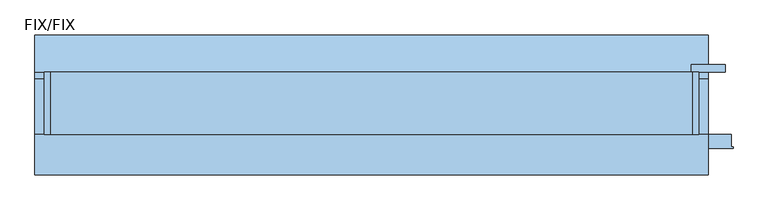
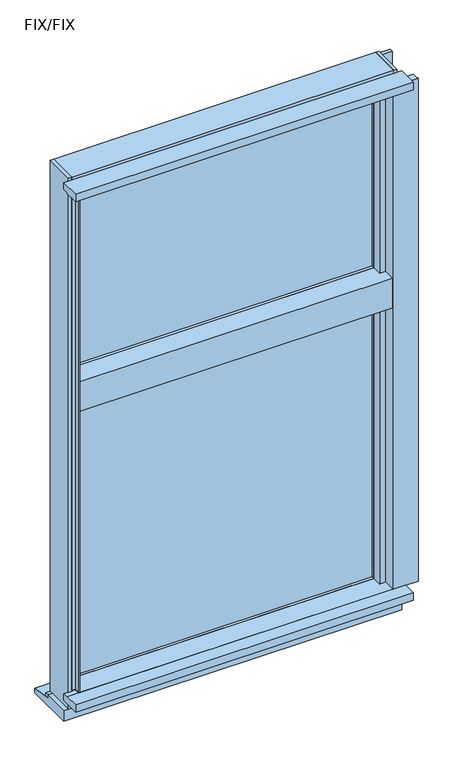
"""IFC4 building model written with IfcOpenShell, lengths in millimetres: window geometry, FNSⅡ100R_非防火_RC枠_段窓 : FIX/FIX."""

import ifcopenshell
import ifcopenshell.guid

model = None  # the IFC model being written
_history = None  # IfcOwnerHistory: only IFC2X3 demands one
_inside = {}  # id of a spatial element -> (the spatial element, [elements in it])
_under = {}  # id of a project, library or spatial element -> (it, [spatial elements below it])
_declared = {}  # id of a project -> (the project, [libraries it declares])
_typed = {}  # id of a type object -> (the type object, [elements of that type])
_made_of = {}  # id of a material, layer set ... -> (it, [elements and type objects made of it])


def new_model(schema):
    """Start an empty IFC model of exactly this schema.

    Asked for "IFC4X3", IfcOpenShell would pick the latest addendum, in which some entities
    have other attributes; the version numbers below select the first issue.
    IFC2X3 requires an IfcOwnerHistory on every rooted entity: one is made here for all.
    """
    global model, _history
    if schema == "IFC4X3":
        model = ifcopenshell.file(schema_version=(4, 3, 0, 0))
    else:
        model = ifcopenshell.file(schema=schema)
    _inside.clear()
    _under.clear()
    _declared.clear()
    _typed.clear()
    _made_of.clear()
    _history = None
    if model.schema == "IFC2X3":
        org = make("IfcOrganization", Name="unknown")
        user = make(
            "IfcPersonAndOrganization",
            ThePerson=make("IfcPerson", FamilyName="unknown"),
            TheOrganization=org,
        )
        app = make(
            "IfcApplication",
            ApplicationDeveloper=org,
            Version="unknown",
            ApplicationFullName="unknown",
            ApplicationIdentifier="unknown",
        )
        _history = make(
            "IfcOwnerHistory",
            OwningUser=user,
            OwningApplication=app,
            ChangeAction="ADDED",
            CreationDate=0,
        )
    return model


def make(cls, **values):
    """One entity of the class cls with the attributes given. An attribute that is None is left unset."""
    return model.create_entity(
        cls, **{name: value for name, value in values.items() if value is not None}
    )


def rooted(cls, **values):
    """An entity with a GlobalId (a new one), such as an element, a storey or a relation."""
    return make(cls, GlobalId=ifcopenshell.guid.new(), OwnerHistory=_history, **values)


def si_unit(unit_type, name, prefix=None):
    """IfcSIUnit, for example si_unit("LENGTHUNIT", "METRE", prefix="MILLI")."""
    return make("IfcSIUnit", UnitType=unit_type, Prefix=prefix, Name=name)


def assignment(units):
    """IfcUnitAssignment: the units of a project."""
    return None if units is None else make("IfcUnitAssignment", Units=units)


def point(xyz):
    """IfcCartesianPoint."""
    return None if xyz is None else make("IfcCartesianPoint", Coordinates=xyz)


def direction(xyz):
    """IfcDirection."""
    return None if xyz is None else make("IfcDirection", DirectionRatios=xyz)


def frame(location, z_axis=None, x_axis=None):
    """IfcAxis2Placement3D, a coordinate frame: its origin and axes. An axis left out is left unset."""
    return make(
        "IfcAxis2Placement3D",
        Location=point(location),
        Axis=direction(z_axis),
        RefDirection=direction(x_axis),
    )


def origin():
    """The frame at (0, 0, 0) with its axes left unset."""
    return frame((0.0, 0.0, 0.0))


def place(relative_to, where):
    """IfcLocalPlacement: puts the frame where relative to a parent placement (None: the world)."""
    return make(
        "IfcLocalPlacement", PlacementRelTo=relative_to, RelativePlacement=where
    )


def context(
    kind, dimensions, precision=None, world=None, true_north=None, identifier=None
):
    """IfcGeometricRepresentationContext, for example the 3D "Model" context."""
    return make(
        "IfcGeometricRepresentationContext",
        ContextIdentifier=identifier,
        ContextType=kind,
        CoordinateSpaceDimension=dimensions,
        Precision=precision,
        WorldCoordinateSystem=world,
        TrueNorth=true_north,
    )


def project(units=None, contexts=None):
    """IfcProject with its units and contexts."""
    return rooted(
        "IfcProject",
        Name="project",
        RepresentationContexts=contexts,
        UnitsInContext=assignment(units),
    )


def spatial(cls, under=None, at=None, **own):
    """A site, building, storey or space (cls), placed at a placement, below another one or the project."""
    s = rooted(cls, ObjectPlacement=at, **own)
    if under is not None:
        _under.setdefault(under.id(), (under, []))[1].append(s)
    return s


def polyline(points):
    """IfcPolyline through the points."""
    return make("IfcPolyline", Points=[point(p) for p in points])


def outline(outer, holes=None, kind="AREA"):
    """IfcArbitraryClosedProfileDef: a profile drawn as a closed curve; with holes, ...WithVoids."""
    if holes is None:
        return make("IfcArbitraryClosedProfileDef", ProfileType=kind, OuterCurve=outer)
    return make(
        "IfcArbitraryProfileDefWithVoids",
        ProfileType=kind,
        OuterCurve=outer,
        InnerCurves=holes,
    )


def extrude(swept, where, along, depth):
    """IfcExtrudedAreaSolid: the profile swept, set in the frame where, extruded along a direction by depth."""
    return make(
        "IfcExtrudedAreaSolid",
        SweptArea=swept,
        Position=where,
        ExtrudedDirection=direction(along),
        Depth=depth,
    )


def faces_of(points, faces, orient=None, outer=None):
    """IfcFace entities. A face is a list of loops; a loop is a list of indices into points, from 0.

    orient and outer hold one flag for each loop. By default every Orientation is true, the
    first loop of a face is its IfcFaceOuterBound and the others are IfcFaceBound.
    """
    made = []
    for i, loops in enumerate(faces):
        bounds = []
        for j, loop in enumerate(loops):
            is_outer = j == 0 if outer is None else outer[i][j]
            bounds.append(
                make(
                    "IfcFaceOuterBound" if is_outer else "IfcFaceBound",
                    Bound=make("IfcPolyLoop", Polygon=[points[k] for k in loop]),
                    Orientation=True if orient is None else orient[i][j],
                )
            )
        made.append(make("IfcFace", Bounds=bounds))
    return made


def faceted_brep(points, faces, orient=None, outer=None, voids=None):
    """IfcFacetedBrep: a solid bounded by flat faces; with voids (closed shells), ...WithVoids."""
    shared = [point(p) for p in points]
    hull = make("IfcClosedShell", CfsFaces=faces_of(shared, faces, orient, outer))
    if voids is None:
        return make("IfcFacetedBrep", Outer=hull)
    return make(
        "IfcFacetedBrepWithVoids",
        Outer=hull,
        Voids=[
            make(cls, CfsFaces=faces_of(shared, fs, o, b)) for cls, fs, o, b in voids
        ],
    )


def shape(context_of_items, identifier, shape_type, items):
    """IfcShapeRepresentation: the items that make up one representation, for example the "Body"."""
    return make(
        "IfcShapeRepresentation",
        ContextOfItems=context_of_items,
        RepresentationIdentifier=identifier,
        RepresentationType=shape_type,
        Items=items,
    )


def source(mapping_origin, context_of_items, identifier, shape_type, items):
    """IfcRepresentationMap: a shape defined once, which mapped items show again and again."""
    return make(
        "IfcRepresentationMap",
        MappingOrigin=mapping_origin,
        MappedRepresentation=shape(context_of_items, identifier, shape_type, items),
    )


def transform(
    local_origin,
    x_axis=None,
    y_axis=None,
    z_axis=None,
    scale=None,
    scale2=None,
    scale3=None,
    uniform=True,
):
    """IfcCartesianTransformationOperator3D, or its non-uniform kind. x_axis, y_axis, z_axis: its Axis1, 2, 3."""
    if uniform:
        return make(
            "IfcCartesianTransformationOperator3D",
            Axis1=direction(x_axis),
            Axis2=direction(y_axis),
            LocalOrigin=point(local_origin),
            Scale=scale,
            Axis3=direction(z_axis),
        )
    return make(
        "IfcCartesianTransformationOperator3DnonUniform",
        Axis1=direction(x_axis),
        Axis2=direction(y_axis),
        LocalOrigin=point(local_origin),
        Scale=scale,
        Axis3=direction(z_axis),
        Scale2=scale2,
        Scale3=scale3,
    )


def mapped(mapping_source, mapping_target):
    """IfcMappedItem: shows the shape of a source again, moved by a transform."""
    return make(
        "IfcMappedItem", MappingSource=mapping_source, MappingTarget=mapping_target
    )


def made_of(thing, what):
    """Note that an element or type object is made of a material, layer set ...; save() writes the relation."""
    if what is not None:
        _made_of.setdefault(what.id(), (what, []))[1].append(thing)
    return thing


def element(
    cls,
    number,
    at=None,
    inside=None,
    cuts=None,
    type_object=None,
    material=None,
    context=None,
    identifier="Body",
    shape_type=None,
    held_by="IfcProductDefinitionShape",
    body=None,
    shapes=None,
    **own,
):
    """One element of the class cls, such as IfcWall. Its Tag is "e" and its number.

    at: its placement. inside: the storey or other place that contains it. cuts: it is an
    opening in that element (IfcRelVoidsElement). A single representation is given by context,
    identifier, shape_type and body (its items); several are given by shapes. held_by: the class
    of the entity that holds the representations. save() writes the other relations.
    """
    e = rooted(cls, Tag="e%d" % number, ObjectPlacement=at, **own)
    if body is not None:
        shapes = [shape(context, identifier, shape_type, body)]
    if shapes is not None:
        e.Representation = make(held_by, Representations=shapes)
    if inside is not None:
        _inside.setdefault(inside.id(), (inside, []))[1].append(e)
    if cuts is not None:
        rooted(
            "IfcRelVoidsElement", RelatingBuildingElement=cuts, RelatedOpeningElement=e
        )
    if type_object is not None:
        _typed.setdefault(type_object.id(), (type_object, []))[1].append(e)
    return made_of(e, material)


def aggregate(whole, parts):
    """IfcRelAggregates: a whole, such as a stair, and the parts it consists of."""
    return rooted("IfcRelAggregates", RelatingObject=whole, RelatedObjects=parts)


def save(model, path):
    """Write the relations noted so far, then the file.

    IfcRelAggregates (storeys below a building ...), IfcRelContainedInSpatialStructure (elements
    in a storey), IfcRelDefinesByType, IfcRelAssociatesMaterial and IfcRelDeclares: one each for
    every whole, place, type object, material and project.
    """
    for whole, parts in _under.values():
        aggregate(whole, parts)
    for where, things in _inside.values():
        rooted(
            "IfcRelContainedInSpatialStructure",
            RelatedElements=things,
            RelatingStructure=where,
        )
    for kind, things in _typed.values():
        rooted("IfcRelDefinesByType", RelatedObjects=things, RelatingType=kind)
    for what, things in _made_of.values():
        rooted("IfcRelAssociatesMaterial", RelatedObjects=things, RelatingMaterial=what)
    for by, libraries in _declared.values():
        rooted("IfcRelDeclares", RelatingContext=by, RelatedDefinitions=libraries)
    model.write(path)


def fix_fix_834ad85f(model_context):
    return source(origin(), model_context, "Body", "SolidModel", [
        extrude(outline(polyline([(-480.0, 20.6), (480.0, 20.6), (480.0, 14.6), (-480.0, 14.6), (-480.0, 20.6)])), frame((0.0, 0.0, 1950.0), z_axis=(0.0, 0.0, 1.0), x_axis=(1.0, 0.0, 0.0)), (0.0, 0.0, 1.0), 650.0),
        extrude(outline(polyline([(-480.0, 38.6), (480.0, 38.6), (480.0, 32.6), (-480.0, 32.6), (-480.0, 38.6)])), frame((0.0, 0.0, 1950.0), z_axis=(0.0, 0.0, 1.0), x_axis=(1.0, 0.0, 0.0)), (0.0, 0.0, 1.0), 650.0),
        extrude(outline(polyline([(-480.0, 20.6), (480.0, 20.6), (480.0, 14.6), (-480.0, 14.6), (-480.0, 20.6)])), frame((0.0, 0.0, 900.0), z_axis=(0.0, 0.0, 1.0), x_axis=(1.0, 0.0, 0.0)), (0.0, 0.0, 1.0), 950.0),
        extrude(outline(polyline([(-480.0, 38.6), (480.0, 38.6), (480.0, 32.6), (-480.0, 32.6), (-480.0, 38.6)])), frame((0.0, 0.0, 900.0), z_axis=(0.0, 0.0, 1.0), x_axis=(1.0, 0.0, 0.0)), (0.0, 0.0, 1.0), 950.0),
        faceted_brep([(-525.0, 55.0, 840.0), (-515.0, 55.0, 840.0), (-515.0, -45.0, 840.0), (-525.0, -45.0, 840.0), (-515.0, 55.0, 2635.0), (-515.0, -45.0, 2635.0), (-515.0, 55.0, 900.0), (-515.0, 5.0, 900.0), (-515.0, 5.0, 2600.0), (-515.0, 55.0, 2600.0), (-525.0, -45.0, 2635.0), (-480.0, 55.0, 900.0), (-480.0, 5.0, 900.0), (-480.0, 55.0, 2600.0), (-480.0, 5.0, 2600.0), (-525.0, 55.0, 2635.0)], [[[0, 1, 2, 3]], [[4, 5, 2, 1, 6, 7, 8, 9]], [[5, 10, 3, 2]], [[11, 12, 7, 6]], [[13, 14, 12, 11]], [[15, 10, 5, 4]], [[15, 4, 9, 13, 11, 6, 1, 0]], [[10, 15, 0, 3]], [[14, 8, 7, 12]], [[13, 9, 8, 14]]]),
        faceted_brep([(525.0, 55.0, 840.0), (525.0, -45.0, 840.0), (515.0, -45.0, 840.0), (515.0, 55.0, 840.0), (525.0, 55.0, 2635.0), (525.0, -45.0, 2635.0), (515.0, -45.0, 2635.0), (515.0, 55.0, 2635.0), (515.0, 55.0, 2600.0), (515.0, 5.0, 2600.0), (515.0, 5.0, 900.0), (515.0, 55.0, 900.0), (480.0, 5.0, 900.0), (480.0, 55.0, 900.0), (480.0, 55.0, 2600.0), (480.0, 5.0, 2600.0)], [[[0, 1, 2, 3]], [[4, 5, 1, 0]], [[6, 7, 8, 9, 10, 11, 3, 2]], [[10, 12, 13, 11]], [[4, 7, 6, 5]], [[5, 6, 2, 1]], [[7, 4, 0, 3, 11, 13, 14, 8]], [[15, 14, 13, 12]], [[9, 15, 12, 10]], [[8, 14, 15, 9]]]),
        extrude(outline(polyline([(500.0, -65.0), (500.0, -26.5), (480.0, -26.5), (480.0, 5.0), (515.0, 5.0), (515.0, -45.0), (503.0, -45.0), (503.0, -65.0), (500.0, -65.0)])), frame((0.0, 0.0, 900.0), z_axis=(0.0, 0.0, 1.0), x_axis=(1.0, 0.0, 0.0)), (0.0, 0.0, 1.0), 1700.0),
        extrude(outline(polyline([(-515.0, -45.0), (-515.0, 5.0), (-480.0, 5.0), (-480.0, -26.5), (-500.0, -26.5), (-500.0, -65.0), (-503.0, -65.0), (-503.0, -45.0), (-515.0, -45.0)])), frame((0.0, 0.0, 900.0), z_axis=(0.0, 0.0, 1.0), x_axis=(1.0, 0.0, 0.0)), (0.0, 0.0, 1.0), 1700.0),
        extrude(outline(polyline([(-45.0, 884.0), (-45.0, 897.0), (-65.0, 897.0), (-65.0, 900.0), (5.0, 900.0), (5.0, 884.0), (-45.0, 884.0)])), frame((-503.0, 0.0, 0.0), z_axis=(1.0, 0.0, 0.0), x_axis=(0.0, 1.0, 0.0)), (0.0, 0.0, 1.0), 1006.0),
        extrude(outline(polyline([(55.0, 840.0), (-45.0, 840.0), (-45.0, 884.0), (5.0, 884.0), (5.0, 900.0), (55.0, 900.0), (55.0, 870.0), (36.0, 870.0), (36.0, 850.0), (55.0, 850.0), (55.0, 840.0)])), frame((-515.0, 0.0, 0.0), z_axis=(1.0, 0.0, 0.0), x_axis=(0.0, 1.0, 0.0)), (0.0, 0.0, 1.0), 1030.0),
        extrude(outline(polyline([(5.0, 1936.0), (-45.0, 1936.0), (-45.0, 1865.0), (5.0, 1865.0), (5.0, 1850.0), (-65.0, 1850.0), (-65.0, 1950.0), (5.0, 1950.0), (5.0, 1936.0)])), frame((-500.0, 0.0, 0.0), z_axis=(1.0, 0.0, 0.0), x_axis=(0.0, 1.0, 0.0)), (0.0, 0.0, 1.0), 1000.0),
        extrude(outline(polyline([(55.0, 1850.0), (5.0, 1850.0), (5.0, 1865.0), (-45.0, 1865.0), (-45.0, 1936.0), (5.0, 1936.0), (5.0, 1950.0), (55.0, 1950.0), (55.0, 1920.0), (36.0, 1920.0), (36.0, 1904.0), (45.5, 1900.0), (55.0, 1900.0), (55.0, 1850.0)])), frame((-480.0, 0.0, 0.0), z_axis=(1.0, 0.0, 0.0), x_axis=(0.0, 1.0, 0.0)), (0.0, 0.0, 1.0), 960.0),
        extrude(outline(polyline([(5.0, 2600.0), (-65.0, 2600.0), (-65.0, 2603.0), (-45.0, 2603.0), (-45.0, 2615.0), (5.0, 2615.0), (5.0, 2600.0)])), frame((-503.0, 0.0, 0.0), z_axis=(1.0, 0.0, 0.0), x_axis=(0.0, 1.0, 0.0)), (0.0, 0.0, 1.0), 1006.0),
        extrude(outline(polyline([(55.0, 2600.0), (5.0, 2600.0), (5.0, 2615.0), (-45.0, 2615.0), (-45.0, 2635.0), (55.0, 2635.0), (55.0, 2600.0)])), frame((-515.0, 0.0, 0.0), z_axis=(1.0, 0.0, 0.0), x_axis=(0.0, 1.0, 0.0)), (0.0, 0.0, 1.0), 1030.0),
        extrude(outline(polyline([(-45.0, 897.0), (-45.0, 875.0), (-110.0, 875.0), (-110.0, 900.0), (-65.0, 900.0), (-65.0, 897.0), (-45.0, 897.0)])), frame((-540.0, 0.0, 0.0), z_axis=(1.0, 0.0, 0.0), x_axis=(0.0, 1.0, 0.0)), (0.0, 0.0, 1.0), 1080.0),
        extrude(outline(polyline([(45.0, 840.0), (55.0, 840.0), (55.0, 828.4285714), (45.0, 830.0), (45.0, 840.0)])), frame((-540.0, 0.0, 0.0), z_axis=(1.0, 0.0, 0.0), x_axis=(0.0, 1.0, 0.0)), (0.0, 0.0, 1.0), 1080.0),
        extrude(outline(polyline([(-45.0, 804.0), (-45.0, 840.0), (45.0, 840.0), (45.0, 830.0), (115.0, 819.0), (115.0, 804.0), (-45.0, 804.0)])), frame((-540.0, 0.0, 0.0), z_axis=(1.0, 0.0, 0.0), x_axis=(0.0, 1.0, 0.0)), (0.0, 0.0, 1.0), 1080.0),
        extrude(outline(polyline([(503.0, -65.0), (503.0, -45.0), (577.0, -45.0), (577.0, -65.0), (580.0, -65.0), (580.0, -67.5), (500.0, -67.5), (500.0, -65.0), (503.0, -65.0)])), frame((0.0, 0.0, 900.0), z_axis=(0.0, 0.0, 1.0), x_axis=(1.0, 0.0, 0.0)), (0.0, 0.0, 1.0), 1700.0),
        extrude(outline(polyline([(567.5, 55.0), (512.5, 55.0), (512.5, 67.0), (567.5, 67.0), (567.5, 55.0)])), frame((0.0, 0.0, 840.0), z_axis=(0.0, 0.0, 1.0), x_axis=(1.0, 0.0, 0.0)), (0.0, 0.0, 1.0), 1780.0),
        extrude(outline(polyline([(-45.0, 2625.0), (-45.0, 2603.0), (-65.0, 2603.0), (-65.0, 2600.0), (-110.0, 2600.0), (-110.0, 2625.0), (-45.0, 2625.0)])), frame((-540.0, 0.0, 0.0), z_axis=(1.0, 0.0, 0.0), x_axis=(0.0, 1.0, 0.0)), (0.0, 0.0, 1.0), 1080.0),
    ])


if __name__ == "__main__":
    model = new_model("IFC4")
    model_context = context("Model", 3, world=origin())
    ifc_project = project(units=[si_unit("LENGTHUNIT", "METRE", prefix="MILLI")], contexts=[model_context])
    site = spatial("IfcSite", under=ifc_project)
    building = spatial("IfcBuilding", under=site)
    placement = place(None, origin())
    fix_fix_shape = fix_fix_834ad85f(model_context)
    element("IfcWindow", 1, ObjectType="FNSⅡ100R_非防火_RC枠_段窓 : FIX/FIX", at=placement, inside=building, context=model_context, shape_type="MappedRepresentation", body=[
        mapped(fix_fix_shape, transform((0.0, 0.0, 0.0), x_axis=(1.0, 0.0, 0.0), y_axis=(0.0, 1.0, 0.0), z_axis=(0.0, 0.0, 1.0))),
    ])
    save(model, "model.ifc")
